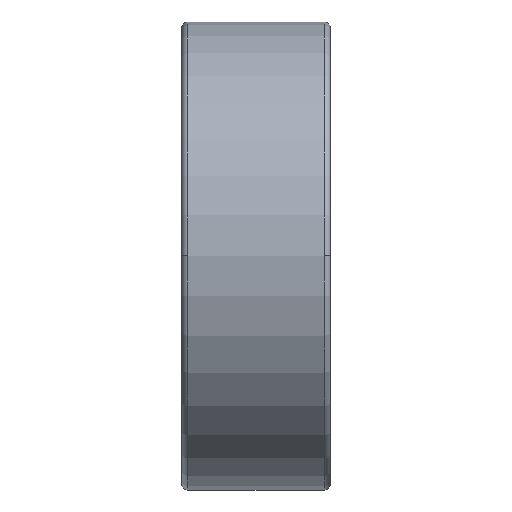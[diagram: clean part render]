
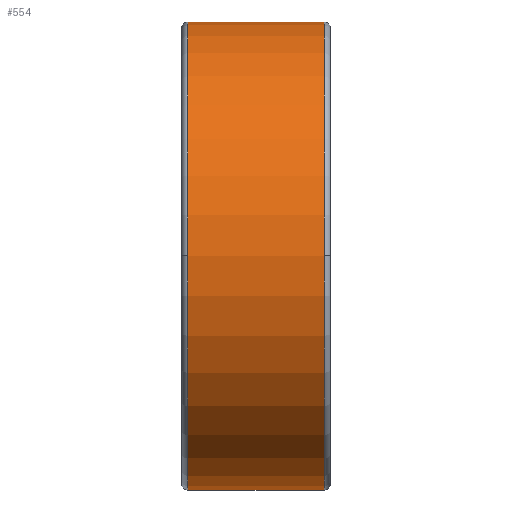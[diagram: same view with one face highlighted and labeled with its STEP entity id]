
A CAD part, top view. The second image highlights one B-rep face of the part: STEP entity #554.
In plain terms, the highlighted cylindrical face has radius 11 mm (diameter 22 mm), a partial arc.
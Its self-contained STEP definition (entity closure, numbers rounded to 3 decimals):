
#403 = TOROIDAL_SURFACE('',#404,10.7,0.3);
#404 = AXIS2_PLACEMENT_3D('',#405,#406,#407);
#405 = CARTESIAN_POINT('',(6.7,0.,0.));
#406 = DIRECTION('',(1.,0.,0.));
#407 = DIRECTION('',(0.,0.,-1.));
#415 = TOROIDAL_SURFACE('',#416,10.7,0.3);
#416 = AXIS2_PLACEMENT_3D('',#417,#418,#419);
#417 = CARTESIAN_POINT('',(6.7,0.,0.));
#418 = DIRECTION('',(1.,0.,0.));
#419 = DIRECTION('',(0.,0.,-1.));
#428 = VERTEX_POINT('',#429);
#429 = CARTESIAN_POINT('',(6.7,11.,0.));
#444 = CYLINDRICAL_SURFACE('',#445,11.);
#445 = AXIS2_PLACEMENT_3D('',#446,#447,#448);
#446 = CARTESIAN_POINT('',(3.5,0.,0.));
#447 = DIRECTION('',(1.,0.,0.));
#448 = DIRECTION('',(-0.,1.,0.));
#456 = EDGE_CURVE('',#428,#457,#459,.T.);
#457 = VERTEX_POINT('',#458);
#458 = CARTESIAN_POINT('',(6.7,0.,11.));
#459 = SURFACE_CURVE('',#460,(#465,#472),.PCURVE_S1.);
#460 = CIRCLE('',#461,11.);
#461 = AXIS2_PLACEMENT_3D('',#462,#463,#464);
#462 = CARTESIAN_POINT('',(6.7,0.,0.));
#463 = DIRECTION('',(1.,0.,0.));
#464 = DIRECTION('',(-0.,1.,0.));
#465 = PCURVE('',#403,#466);
#466 = DEFINITIONAL_REPRESENTATION('',(#467),#471);
#467 = LINE('',#468,#469);
#468 = CARTESIAN_POINT('',(1.571,0.));
#469 = VECTOR('',#470,1.);
#470 = DIRECTION('',(1.,0.));
#471 = ( GEOMETRIC_REPRESENTATION_CONTEXT(2) 
PARAMETRIC_REPRESENTATION_CONTEXT() REPRESENTATION_CONTEXT('2D SPACE',''
  ) );
#472 = PCURVE('',#473,#478);
#473 = CYLINDRICAL_SURFACE('',#474,11.);
#474 = AXIS2_PLACEMENT_3D('',#475,#476,#477);
#475 = CARTESIAN_POINT('',(3.5,0.,0.));
#476 = DIRECTION('',(1.,0.,0.));
#477 = DIRECTION('',(-0.,1.,0.));
#478 = DEFINITIONAL_REPRESENTATION('',(#479),#483);
#479 = LINE('',#480,#481);
#480 = CARTESIAN_POINT('',(0.,3.2));
#481 = VECTOR('',#482,1.);
#482 = DIRECTION('',(1.,0.));
#483 = ( GEOMETRIC_REPRESENTATION_CONTEXT(2) 
PARAMETRIC_REPRESENTATION_CONTEXT() REPRESENTATION_CONTEXT('2D SPACE',''
  ) );
#554 = ADVANCED_FACE('',(#555),#473,.T.);
#555 = FACE_BOUND('',#556,.T.);
#556 = EDGE_LOOP('',(#557,#580,#609,#638,#661,#683));
#557 = ORIENTED_EDGE('',*,*,#558,.F.);
#558 = EDGE_CURVE('',#559,#428,#561,.T.);
#559 = VERTEX_POINT('',#560);
#560 = CARTESIAN_POINT('',(0.3,11.,0.));
#561 = SURFACE_CURVE('',#562,(#566,#573),.PCURVE_S1.);
#562 = LINE('',#563,#564);
#563 = CARTESIAN_POINT('',(3.5,11.,0.));
#564 = VECTOR('',#565,1.);
#565 = DIRECTION('',(1.,0.,0.));
#566 = PCURVE('',#473,#567);
#567 = DEFINITIONAL_REPRESENTATION('',(#568),#572);
#568 = LINE('',#569,#570);
#569 = CARTESIAN_POINT('',(0.,0.));
#570 = VECTOR('',#571,1.);
#571 = DIRECTION('',(0.,1.));
#572 = ( GEOMETRIC_REPRESENTATION_CONTEXT(2) 
PARAMETRIC_REPRESENTATION_CONTEXT() REPRESENTATION_CONTEXT('2D SPACE',''
  ) );
#573 = PCURVE('',#444,#574);
#574 = DEFINITIONAL_REPRESENTATION('',(#575),#579);
#575 = LINE('',#576,#577);
#576 = CARTESIAN_POINT('',(6.283,0.));
#577 = VECTOR('',#578,1.);
#578 = DIRECTION('',(0.,1.));
#579 = ( GEOMETRIC_REPRESENTATION_CONTEXT(2) 
PARAMETRIC_REPRESENTATION_CONTEXT() REPRESENTATION_CONTEXT('2D SPACE',''
  ) );
#580 = ORIENTED_EDGE('',*,*,#581,.T.);
#581 = EDGE_CURVE('',#559,#582,#584,.T.);
#582 = VERTEX_POINT('',#583);
#583 = CARTESIAN_POINT('',(0.3,0.,11.));
#584 = SURFACE_CURVE('',#585,(#590,#597),.PCURVE_S1.);
#585 = CIRCLE('',#586,11.);
#586 = AXIS2_PLACEMENT_3D('',#587,#588,#589);
#587 = CARTESIAN_POINT('',(0.3,0.,0.));
#588 = DIRECTION('',(1.,0.,0.));
#589 = DIRECTION('',(-0.,1.,0.));
#590 = PCURVE('',#473,#591);
#591 = DEFINITIONAL_REPRESENTATION('',(#592),#596);
#592 = LINE('',#593,#594);
#593 = CARTESIAN_POINT('',(0.,-3.2));
#594 = VECTOR('',#595,1.);
#595 = DIRECTION('',(1.,0.));
#596 = ( GEOMETRIC_REPRESENTATION_CONTEXT(2) 
PARAMETRIC_REPRESENTATION_CONTEXT() REPRESENTATION_CONTEXT('2D SPACE',''
  ) );
#597 = PCURVE('',#598,#603);
#598 = TOROIDAL_SURFACE('',#599,10.7,0.3);
#599 = AXIS2_PLACEMENT_3D('',#600,#601,#602);
#600 = CARTESIAN_POINT('',(0.3,0.,0.));
#601 = DIRECTION('',(1.,0.,0.));
#602 = DIRECTION('',(0.,0.,-1.));
#603 = DEFINITIONAL_REPRESENTATION('',(#604),#608);
#604 = LINE('',#605,#606);
#605 = CARTESIAN_POINT('',(1.571,6.283));
#606 = VECTOR('',#607,1.);
#607 = DIRECTION('',(1.,0.));
#608 = ( GEOMETRIC_REPRESENTATION_CONTEXT(2) 
PARAMETRIC_REPRESENTATION_CONTEXT() REPRESENTATION_CONTEXT('2D SPACE',''
  ) );
#609 = ORIENTED_EDGE('',*,*,#610,.T.);
#610 = EDGE_CURVE('',#582,#611,#613,.T.);
#611 = VERTEX_POINT('',#612);
#612 = CARTESIAN_POINT('',(0.3,-11.,0.));
#613 = SURFACE_CURVE('',#614,(#619,#626),.PCURVE_S1.);
#614 = CIRCLE('',#615,11.);
#615 = AXIS2_PLACEMENT_3D('',#616,#617,#618);
#616 = CARTESIAN_POINT('',(0.3,0.,0.));
#617 = DIRECTION('',(1.,0.,0.));
#618 = DIRECTION('',(-0.,1.,0.));
#619 = PCURVE('',#473,#620);
#620 = DEFINITIONAL_REPRESENTATION('',(#621),#625);
#621 = LINE('',#622,#623);
#622 = CARTESIAN_POINT('',(0.,-3.2));
#623 = VECTOR('',#624,1.);
#624 = DIRECTION('',(1.,0.));
#625 = ( GEOMETRIC_REPRESENTATION_CONTEXT(2) 
PARAMETRIC_REPRESENTATION_CONTEXT() REPRESENTATION_CONTEXT('2D SPACE',''
  ) );
#626 = PCURVE('',#627,#632);
#627 = TOROIDAL_SURFACE('',#628,10.7,0.3);
#628 = AXIS2_PLACEMENT_3D('',#629,#630,#631);
#629 = CARTESIAN_POINT('',(0.3,0.,0.));
#630 = DIRECTION('',(1.,0.,0.));
#631 = DIRECTION('',(0.,0.,-1.));
#632 = DEFINITIONAL_REPRESENTATION('',(#633),#637);
#633 = LINE('',#634,#635);
#634 = CARTESIAN_POINT('',(1.571,6.283));
#635 = VECTOR('',#636,1.);
#636 = DIRECTION('',(1.,0.));
#637 = ( GEOMETRIC_REPRESENTATION_CONTEXT(2) 
PARAMETRIC_REPRESENTATION_CONTEXT() REPRESENTATION_CONTEXT('2D SPACE',''
  ) );
#638 = ORIENTED_EDGE('',*,*,#639,.F.);
#639 = EDGE_CURVE('',#640,#611,#642,.T.);
#640 = VERTEX_POINT('',#641);
#641 = CARTESIAN_POINT('',(6.7,-11.,0.));
#642 = SURFACE_CURVE('',#643,(#647,#654),.PCURVE_S1.);
#643 = LINE('',#644,#645);
#644 = CARTESIAN_POINT('',(3.5,-11.,0.));
#645 = VECTOR('',#646,1.);
#646 = DIRECTION('',(-1.,-0.,-0.));
#647 = PCURVE('',#473,#648);
#648 = DEFINITIONAL_REPRESENTATION('',(#649),#653);
#649 = LINE('',#650,#651);
#650 = CARTESIAN_POINT('',(3.142,0.));
#651 = VECTOR('',#652,1.);
#652 = DIRECTION('',(0.,-1.));
#653 = ( GEOMETRIC_REPRESENTATION_CONTEXT(2) 
PARAMETRIC_REPRESENTATION_CONTEXT() REPRESENTATION_CONTEXT('2D SPACE',''
  ) );
#654 = PCURVE('',#444,#655);
#655 = DEFINITIONAL_REPRESENTATION('',(#656),#660);
#656 = LINE('',#657,#658);
#657 = CARTESIAN_POINT('',(3.142,0.));
#658 = VECTOR('',#659,1.);
#659 = DIRECTION('',(0.,-1.));
#660 = ( GEOMETRIC_REPRESENTATION_CONTEXT(2) 
PARAMETRIC_REPRESENTATION_CONTEXT() REPRESENTATION_CONTEXT('2D SPACE',''
  ) );
#661 = ORIENTED_EDGE('',*,*,#662,.F.);
#662 = EDGE_CURVE('',#457,#640,#663,.T.);
#663 = SURFACE_CURVE('',#664,(#669,#676),.PCURVE_S1.);
#664 = CIRCLE('',#665,11.);
#665 = AXIS2_PLACEMENT_3D('',#666,#667,#668);
#666 = CARTESIAN_POINT('',(6.7,0.,0.));
#667 = DIRECTION('',(1.,0.,0.));
#668 = DIRECTION('',(-0.,1.,0.));
#669 = PCURVE('',#473,#670);
#670 = DEFINITIONAL_REPRESENTATION('',(#671),#675);
#671 = LINE('',#672,#673);
#672 = CARTESIAN_POINT('',(0.,3.2));
#673 = VECTOR('',#674,1.);
#674 = DIRECTION('',(1.,0.));
#675 = ( GEOMETRIC_REPRESENTATION_CONTEXT(2) 
PARAMETRIC_REPRESENTATION_CONTEXT() REPRESENTATION_CONTEXT('2D SPACE',''
  ) );
#676 = PCURVE('',#415,#677);
#677 = DEFINITIONAL_REPRESENTATION('',(#678),#682);
#678 = LINE('',#679,#680);
#679 = CARTESIAN_POINT('',(1.571,0.));
#680 = VECTOR('',#681,1.);
#681 = DIRECTION('',(1.,0.));
#682 = ( GEOMETRIC_REPRESENTATION_CONTEXT(2) 
PARAMETRIC_REPRESENTATION_CONTEXT() REPRESENTATION_CONTEXT('2D SPACE',''
  ) );
#683 = ORIENTED_EDGE('',*,*,#456,.F.);
